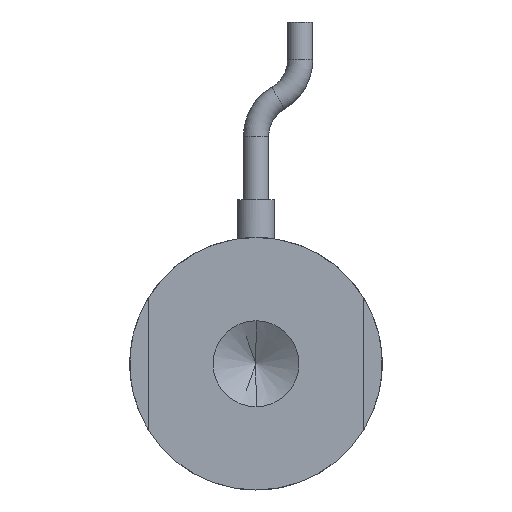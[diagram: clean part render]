
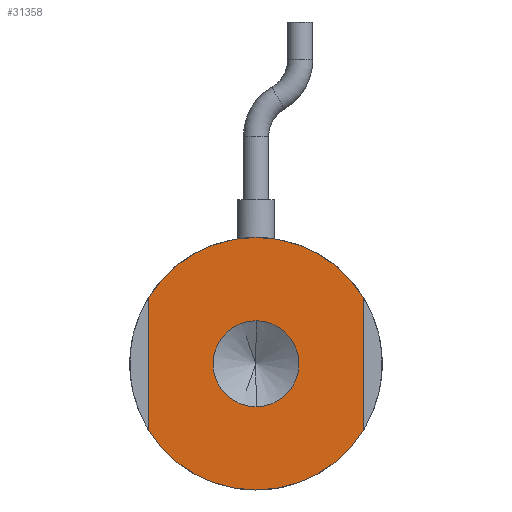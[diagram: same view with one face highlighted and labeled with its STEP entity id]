
A CAD part, front view. The second image highlights one B-rep face of the part: STEP entity #31358.
In plain terms, the highlighted planar face has unit normal (0, -1, 0).
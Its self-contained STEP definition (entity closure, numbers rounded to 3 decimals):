
#635 = CARTESIAN_POINT ( 'NONE',  ( 0., 0., 0. ) ) ;
#1140 = DIRECTION ( 'NONE',  ( 0., 1., 0. ) ) ;
#1267 = FACE_BOUND ( 'NONE', #21841, .T. ) ;
#1694 = VERTEX_POINT ( 'NONE', #5367 ) ;
#2743 = EDGE_CURVE ( 'NONE', #22023, #5154, #4385, .T. ) ;
#2943 = DIRECTION ( 'NONE',  ( 0., 0., -1. ) ) ;
#3052 = DIRECTION ( 'NONE',  ( 0., 0., 1. ) ) ;
#3410 = CARTESIAN_POINT ( 'NONE',  ( 8.5, 0., 5.268 ) ) ;
#3438 = CIRCLE ( 'NONE', #42774, 10. ) ;
#4208 = DIRECTION ( 'NONE',  ( 0., 0., -1. ) ) ;
#4301 = DIRECTION ( 'NONE',  ( 0., 1., 0. ) ) ;
#4385 = CIRCLE ( 'NONE', #44829, 3.4 ) ;
#4901 = DIRECTION ( 'NONE',  ( 0., 0., 1. ) ) ;
#5154 = VERTEX_POINT ( 'NONE', #44309 ) ;
#5207 = AXIS2_PLACEMENT_3D ( 'NONE', #25357, #4301, #28926 ) ;
#5367 = CARTESIAN_POINT ( 'NONE',  ( 0., 0., -10. ) ) ;
#5863 = EDGE_CURVE ( 'NONE', #19162, #1694, #3438, .T. ) ;
#7360 = AXIS2_PLACEMENT_3D ( 'NONE', #635, #25254, #4208 ) ;
#8303 = CARTESIAN_POINT ( 'NONE',  ( 8.5, 0., 0. ) ) ;
#8985 = ORIENTED_EDGE ( 'NONE', *, *, #24895, .F. ) ;
#9742 = CARTESIAN_POINT ( 'NONE',  ( 0., 0., 0. ) ) ;
#9999 = LINE ( 'NONE', #25956, #19255 ) ;
#10828 = CIRCLE ( 'NONE', #22000, 10. ) ;
#13259 = DIRECTION ( 'NONE',  ( 0., 0., 1. ) ) ;
#13753 = ORIENTED_EDGE ( 'NONE', *, *, #16540, .F. ) ;
#14440 = VERTEX_POINT ( 'NONE', #34878 ) ;
#15472 = ORIENTED_EDGE ( 'NONE', *, *, #2743, .F. ) ;
#15589 = CARTESIAN_POINT ( 'NONE',  ( 0., 0., 10. ) ) ;
#16540 = EDGE_CURVE ( 'NONE', #29908, #39842, #20201, .T. ) ;
#16861 = EDGE_CURVE ( 'NONE', #1694, #14440, #33521, .T. ) ;
#18085 = AXIS2_PLACEMENT_3D ( 'NONE', #34411, #20140, #41504 ) ;
#19162 = VERTEX_POINT ( 'NONE', #35285 ) ;
#19255 = VECTOR ( 'NONE', #4901, 1000. ) ;
#20106 = AXIS2_PLACEMENT_3D ( 'NONE', #22178, #1140, #25760 ) ;
#20140 = DIRECTION ( 'NONE',  ( 0., 1., 0. ) ) ;
#20201 = CIRCLE ( 'NONE', #20106, 10. ) ;
#21841 = EDGE_LOOP ( 'NONE', ( #15472, #31445 ) ) ;
#21964 = EDGE_CURVE ( 'NONE', #33730, #19162, #24497, .T. ) ;
#22000 = AXIS2_PLACEMENT_3D ( 'NONE', #9742, #34353, #13259 ) ;
#22023 = VERTEX_POINT ( 'NONE', #43856 ) ;
#22178 = CARTESIAN_POINT ( 'NONE',  ( 0., 0., 0. ) ) ;
#23328 = EDGE_CURVE ( 'NONE', #5154, #22023, #45465, .T. ) ;
#24006 = DIRECTION ( 'NONE',  ( 0., -1., 0. ) ) ;
#24116 = DIRECTION ( 'NONE',  ( 0., 1., 0. ) ) ;
#24297 = ORIENTED_EDGE ( 'NONE', *, *, #16861, .F. ) ;
#24497 = LINE ( 'NONE', #8303, #33930 ) ;
#24895 = EDGE_CURVE ( 'NONE', #39842, #33730, #10828, .T. ) ;
#25254 = DIRECTION ( 'NONE',  ( 0., -1., 0. ) ) ;
#25357 = CARTESIAN_POINT ( 'NONE',  ( 0., 0., 0. ) ) ;
#25760 = DIRECTION ( 'NONE',  ( 0., 0., 1. ) ) ;
#25942 = DIRECTION ( 'NONE',  ( 0., 0., -1. ) ) ;
#25956 = CARTESIAN_POINT ( 'NONE',  ( -8.5, 0., 0. ) ) ;
#26539 = ORIENTED_EDGE ( 'NONE', *, *, #5863, .F. ) ;
#26687 = CARTESIAN_POINT ( 'NONE',  ( -8.5, 0., 5.268 ) ) ;
#28926 = DIRECTION ( 'NONE',  ( 0., 0., 1. ) ) ;
#29908 = VERTEX_POINT ( 'NONE', #26687 ) ;
#31358 = ADVANCED_FACE ( 'NONE', ( #1267, #36585 ), #37977, .F. ) ;
#31445 = ORIENTED_EDGE ( 'NONE', *, *, #23328, .F. ) ;
#33521 = CIRCLE ( 'NONE', #5207, 10. ) ;
#33725 = ORIENTED_EDGE ( 'NONE', *, *, #35300, .F. ) ;
#33730 = VERTEX_POINT ( 'NONE', #3410 ) ;
#33930 = VECTOR ( 'NONE', #25942, 1000. ) ;
#34353 = DIRECTION ( 'NONE',  ( 0., 1., 0. ) ) ;
#34411 = CARTESIAN_POINT ( 'NONE',  ( 0., 0., 0. ) ) ;
#34878 = CARTESIAN_POINT ( 'NONE',  ( -8.5, 0., -5.268 ) ) ;
#35285 = CARTESIAN_POINT ( 'NONE',  ( 8.5, 0., -5.268 ) ) ;
#35300 = EDGE_CURVE ( 'NONE', #14440, #29908, #9999, .T. ) ;
#36585 = FACE_OUTER_BOUND ( 'NONE', #37260, .T. ) ;
#37260 = EDGE_LOOP ( 'NONE', ( #33725, #24297, #26539, #41463, #8985, #13753 ) ) ;
#37977 = PLANE ( 'NONE',  #18085 ) ;
#39842 = VERTEX_POINT ( 'NONE', #15589 ) ;
#41463 = ORIENTED_EDGE ( 'NONE', *, *, #21964, .F. ) ;
#41504 = DIRECTION ( 'NONE',  ( 0., 0., 1. ) ) ;
#42774 = AXIS2_PLACEMENT_3D ( 'NONE', #45272, #24116, #3052 ) ;
#43856 = CARTESIAN_POINT ( 'NONE',  ( 0., 0., -3.4 ) ) ;
#44309 = CARTESIAN_POINT ( 'NONE',  ( 0., 0., 3.4 ) ) ;
#44829 = AXIS2_PLACEMENT_3D ( 'NONE', #45164, #24006, #2943 ) ;
#45164 = CARTESIAN_POINT ( 'NONE',  ( 0., 0., 0. ) ) ;
#45272 = CARTESIAN_POINT ( 'NONE',  ( 0., 0., 0. ) ) ;
#45465 = CIRCLE ( 'NONE', #7360, 3.4 ) ;
